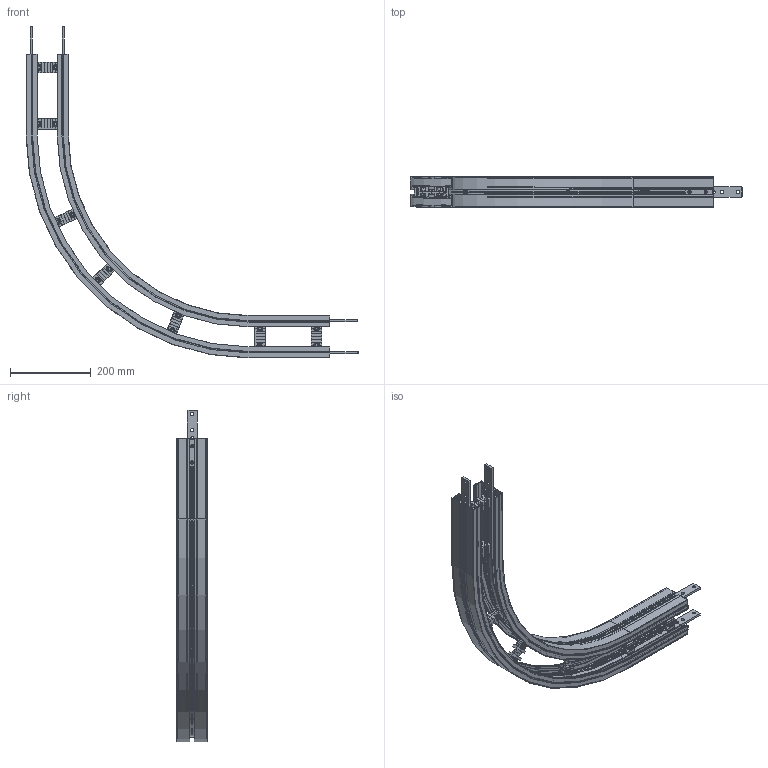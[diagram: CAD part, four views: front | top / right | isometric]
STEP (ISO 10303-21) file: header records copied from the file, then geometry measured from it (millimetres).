
FILE_DESCRIPTION (( 'STEP AP214' ), '1' );
FILE_NAME ('FCHB-90R500.STEP', '2012-04-04T11:42:15', ( 'gs' ), ( 'Microsoft' ), 'SwSTEP 2.0', 'SolidWorks 2011', '' );
FILE_SCHEMA (( 'AUTOMOTIVE_DESIGN' ));
Length unit declared in the file: millimetre
Products named in the file (8): FACS-25.éclisse larg 25mm_Default; Clamp Flex_FCHB - CLP; Ecrou bague frein; vis CHC  lg23 ; Clamp_FC; FASR-25 U_90R500; FCHB R500_90R500; FCHB-90R500
Assembly tree (20 placements, depth 3):
  FCHB-90R500
    FCHB R500_90R500
    FASR-25 U_90R500  x2
    FACS-25.éclisse larg 25mm_Default  x4
    Clamp Flex_FCHB - CLP  x7
      Clamp_FC
      vis CHC  lg23 
      Ecrou bague frein
Bounding box: 822.5 x 76.3 x 822.5 mm (x, y, z)
Volume: 1361013.3 mm3; surface area: 1349530.6 mm2
Topology: 52 solids, 52 shells, 2879 faces, 7159 edges, 4118 vertices
Faces by surface type: plane 1166, cylinder 1056, torus 213, sphere 196, bspline 168, cone 80
Entity records: 22278 total; most frequent: CARTESIAN_POINT 4033, DIRECTION 3926, ORIENTED_EDGE 3590, EDGE_CURVE 1795, AXIS2_PLACEMENT_3D 1420, VERTEX_POINT 1087, VECTOR 1086, LINE 1086
